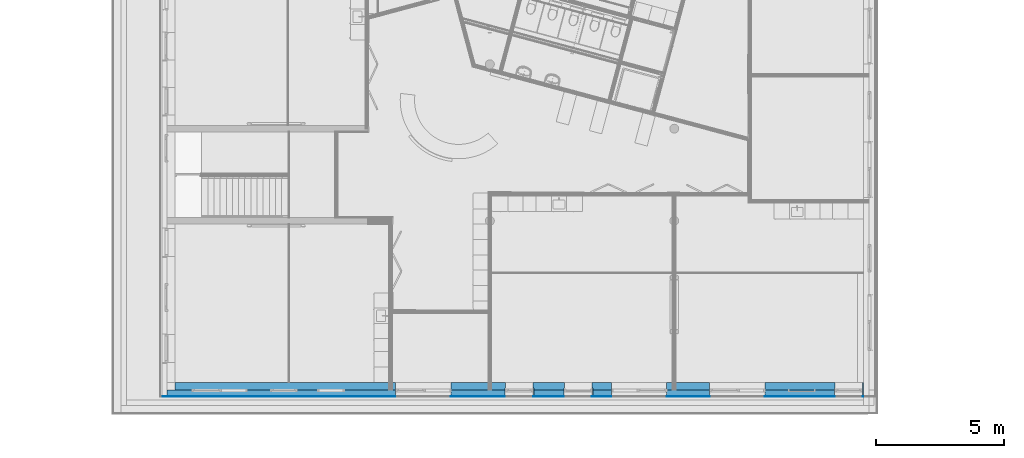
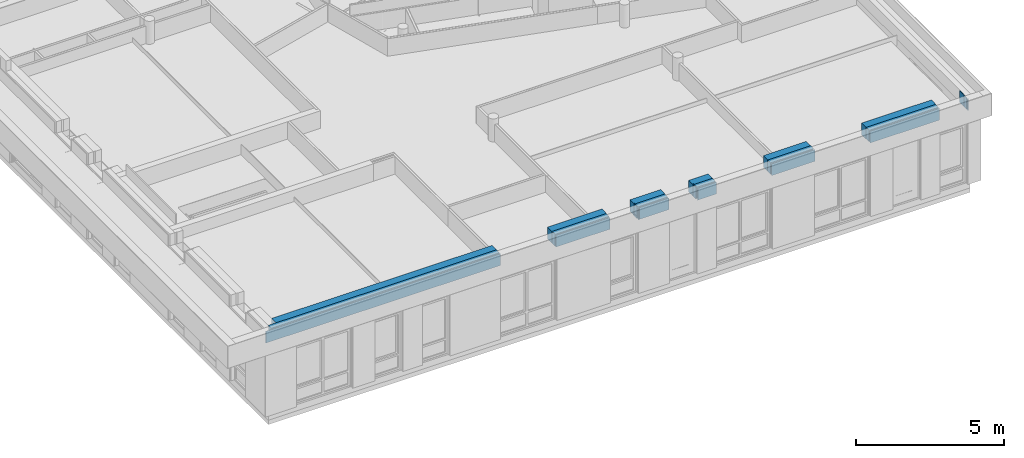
# One storey, part 51 of 167: 3 building element parts, 6 openings, 1 element without a shape of its own.
"""IFC2X3 building model written with IfcOpenShell, lengths in millimetres."""

from ifc_helpers import new_model, entity, si_unit, converted_unit, derived_unit, money_unit, direction, frame, origin_with_axes, place, context, subcontext, project, spatial, faceted_brep, material, type_object, element, aggregate, save


model = new_model("IFC2X3")

# Units and contexts
model_context = context("Model", 3, precision=0.01, world=origin_with_axes(), true_north=direction((0.0, 1.0)))
plan_context = context("Plan", 3, precision=0.01, world=origin_with_axes(), true_north=direction((0.0, 1.0)))
body_context = subcontext(model_context, "Body", "Model", "MODEL_VIEW")
ifc_project = project(units=[si_unit("LENGTHUNIT", "METRE", prefix="MILLI"), si_unit("AREAUNIT", "SQUARE_METRE"), si_unit("VOLUMEUNIT", "CUBIC_METRE"), converted_unit("PLANEANGLEUNIT", "DEGREE", entity("IfcPlaneAngleMeasure", 0.0174532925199), si_unit("PLANEANGLEUNIT", "RADIAN"), dimensions=[0, 0, 0, 0, 0, 0, 0]), si_unit("SOLIDANGLEUNIT", "STERADIAN"), money_unit("EUR"), converted_unit("TIMEUNIT", "Year", entity("IfcTimeMeasure", 31556926.0), si_unit("TIMEUNIT", "SECOND"), dimensions=[0, 0, 1, 0, 0, 0, 0]), si_unit("MASSUNIT", "GRAM", prefix="KILO"), si_unit("THERMODYNAMICTEMPERATUREUNIT", "DEGREE_CELSIUS"), si_unit("LUMINOUSINTENSITYUNIT", "LUMEN"), si_unit("ENERGYUNIT", "JOULE", prefix="MEGA"), derived_unit("THERMALCONDUCTANCEUNIT", [(si_unit("POWERUNIT", "WATT"), 1), (si_unit("LENGTHUNIT", "METRE"), -1), (si_unit("THERMODYNAMICTEMPERATUREUNIT", "KELVIN"), -1)]), derived_unit("SPECIFICHEATCAPACITYUNIT", [(si_unit("ENERGYUNIT", "JOULE"), 1), (si_unit("MASSUNIT", "GRAM", prefix="KILO"), -1), (si_unit("THERMODYNAMICTEMPERATUREUNIT", "KELVIN"), -1)]), derived_unit("MASSDENSITYUNIT", [(si_unit("MASSUNIT", "GRAM", prefix="KILO"), 1), (si_unit("VOLUMEUNIT", "CUBIC_METRE"), -1)])], contexts=[model_context, plan_context])

# Site, building, storey
site_placement = place(None, origin_with_axes())
site = spatial("IfcSite", under=ifc_project, at=site_placement, Name="Site", CompositionType="ELEMENT")
building_placement = place(site_placement, origin_with_axes())
building = spatial("IfcBuilding", under=site, at=building_placement, Name="Naam gebouw", CompositionType="ELEMENT")
storey_placement = place(building_placement, origin_with_axes())
storey = spatial("IfcBuildingStorey", under=building, at=storey_placement, Name="Begane grond", CompositionType="ELEMENT", Elevation=0.0)

# Wall, openings, building element parts
wall_type = type_object("IfcWallType", Name="_TenW_21_Spouwmuur ht-kz-300- RC 4,7 574", PredefinedType="NOTDEFINED")
wall_placement = place(storey_placement, frame((1800.0, 600.0, 3050.0), z_axis=(0.0, 0.0, 1.0), x_axis=(1.0, 0.0, 0.0)))
wall = element("IfcWall", 1, at=wall_placement, inside=storey, type_object=wall_type, Name="21_Wand_Wand-x")
opening_1_placement = place(wall_placement, frame((-1800.0, -600.0, -3050.0), z_axis=(0.0, 0.0, 1.0), x_axis=(1.0, 0.0, 0.0)))
element("IfcOpeningElement", 2, at=opening_1_placement, cuts=wall, Name="_Lege opening_Doorvoer-x", context=body_context, shape_type="Brep", body=[
    faceted_brep([(22982.1700651, 326.0, 3050.0), (22982.1700651, 326.0, 3530.0), (22982.1700651, 900.0, 3530.0), (22982.1700651, 900.0, 3050.0), (25142.0700651, 326.0, 3050.0), (25142.0700651, 326.0, 3530.0), (25142.0700651, 900.0, 3530.0), (25142.0700651, 900.0, 3050.0)], [[[0, 1, 2, 3]], [[0, 4, 5, 1]], [[1, 5, 6, 2]], [[3, 2, 6, 7]], [[4, 0, 3, 7]], [[5, 4, 7, 6]]]),
])
opening_2_placement = place(wall_placement, frame((-1800.0, -600.0, -3050.0), z_axis=(0.0, 0.0, 1.0), x_axis=(1.0, 0.0, 0.0)))
element("IfcOpeningElement", 3, at=opening_2_placement, cuts=wall, Name="_Lege opening_Doorvoer-x", context=body_context, shape_type="Brep", body=[
    faceted_brep([(27875.5740559, 326.0, 3050.0), (27875.5740559, 326.0, 3530.0), (27875.5740559, 900.0, 3530.0), (27875.5740559, 900.0, 3050.0), (28958.0940559, 326.0, 3050.0), (28958.0940559, 326.0, 3530.0), (28958.0940559, 900.0, 3530.0), (28958.0940559, 900.0, 3050.0)], [[[0, 1, 2, 3]], [[0, 4, 5, 1]], [[1, 5, 6, 2]], [[3, 2, 6, 7]], [[4, 0, 3, 7]], [[5, 4, 7, 6]]]),
])
opening_3_placement = place(wall_placement, frame((-1800.0, -600.0, -3050.0), z_axis=(0.0, 0.0, 1.0), x_axis=(1.0, 0.0, 0.0)))
element("IfcOpeningElement", 4, at=opening_3_placement, cuts=wall, Name="_Lege opening_Doorvoer-x", context=body_context, shape_type="Brep", body=[
    faceted_brep([(19141.2090559, 326.0, 3050.0), (19141.2090559, 326.0, 3530.0), (19141.2090559, 900.0, 3530.0), (19141.2090559, 900.0, 3050.0), (21301.1090559, 326.0, 3050.0), (21301.1090559, 326.0, 3530.0), (21301.1090559, 900.0, 3530.0), (21301.1090559, 900.0, 3050.0)], [[[0, 1, 2, 3]], [[0, 4, 5, 1]], [[1, 5, 6, 2]], [[3, 2, 6, 7]], [[4, 0, 3, 7]], [[5, 4, 7, 6]]]),
])
opening_4_placement = place(wall_placement, frame((-1800.0, -600.0, -3050.0), z_axis=(0.0, 0.0, 1.0), x_axis=(1.0, 0.0, 0.0)))
element("IfcOpeningElement", 5, at=opening_4_placement, cuts=wall, Name="_Lege opening_Doorvoer-x", context=body_context, shape_type="Brep", body=[
    faceted_brep([(17305.4640559, 326.0, 3050.0), (17305.4640559, 326.0, 3530.0), (17305.4640559, 900.0, 3530.0), (17305.4640559, 900.0, 3050.0), (18387.9840559, 326.0, 3050.0), (18387.9840559, 326.0, 3530.0), (18387.9840559, 900.0, 3530.0), (18387.9840559, 900.0, 3050.0)], [[[0, 1, 2, 3]], [[0, 4, 5, 1]], [[1, 5, 6, 2]], [[3, 2, 6, 7]], [[4, 0, 3, 7]], [[5, 4, 7, 6]]]),
])
opening_5_placement = place(wall_placement, frame((-1800.0, -600.0, -3050.0), z_axis=(0.0, 0.0, 1.0), x_axis=(1.0, 0.0, 0.0)))
element("IfcOpeningElement", 6, at=opening_5_placement, cuts=wall, Name="_Lege opening_Doorvoer-x", context=body_context, shape_type="Brep", body=[
    faceted_brep([(15007.6140559, 326.0, 3050.0), (15007.6140559, 326.0, 3530.0), (15007.6140559, 900.0, 3530.0), (15007.6140559, 900.0, 3050.0), (16090.1340559, 326.0, 3050.0), (16090.1340559, 326.0, 3530.0), (16090.1340559, 900.0, 3530.0), (16090.1340559, 900.0, 3050.0)], [[[0, 1, 2, 3]], [[0, 4, 5, 1]], [[1, 5, 6, 2]], [[3, 2, 6, 7]], [[4, 0, 3, 7]], [[5, 4, 7, 6]]]),
])
opening_6_placement = place(wall_placement, frame((-1800.0, -600.0, -3050.0), z_axis=(0.0, 0.0, 1.0), x_axis=(1.0, 0.0, 0.0)))
element("IfcOpeningElement", 7, at=opening_6_placement, cuts=wall, Name="_Lege opening_Doorvoer-x", context=body_context, shape_type="Brep", body=[
    faceted_brep([(10715.7790559, 326.0, 3050.0), (10715.7790559, 326.0, 3530.0), (10715.7790559, 900.0, 3530.0), (10715.7790559, 900.0, 3050.0), (12875.6790559, 326.0, 3050.0), (12875.6790559, 326.0, 3530.0), (12875.6790559, 900.0, 3530.0), (12875.6790559, 900.0, 3050.0)], [[[0, 1, 2, 3]], [[0, 4, 5, 1]], [[1, 5, 6, 2]], [[3, 2, 6, 7]], [[4, 0, 3, 7]], [[5, 4, 7, 6]]]),
])
ifc_material_1 = material(Name="Steen - Kalkzandsteen C")
building_element_part_1_placement = place(wall_placement, origin_with_axes())
building_element_part_1 = element("IfcBuildingElementPart", 8, at=building_element_part_1_placement, material=ifc_material_1, Name="Steen - Kalkzandsteen C", context=body_context, shape_type="Brep", body=[
    faceted_brep([(300.0, 300.0, 480.0), (8915.77905593, 300.0, 480.0), (8915.77905593, 300.0, 0.0), (300.0, 300.0, 0.0), (8915.77905593, 0.0, 480.0), (300.0, 0.0, 480.0), (8915.77905593, 0.0, 0.0), (300.0, 0.0, 0.0)], [[[0, 1, 2, 3]], [[4, 1, 0, 5]], [[1, 4, 6, 2]], [[6, 7, 3, 2]], [[5, 0, 3, 7]], [[4, 5, 7, 6]]]),
    faceted_brep([(11075.6790559, 300.0, 480.0), (13207.6140559, 300.0, 480.0), (13207.6140559, 300.0, 0.0), (11075.6790559, 300.0, 0.0), (13207.6140559, 70.0, 480.0), (11075.6790559, 0.0, 480.0), (13189.6140559, 0.0, 480.0), (13189.6140559, 70.0, 480.0), (13207.6140559, 70.0, 0.0), (13189.6140559, 70.0, 0.0), (13189.6140559, 0.0, 0.0), (11075.6790559, 0.0, 0.0)], [[[0, 1, 2, 3]], [[4, 1, 0, 5, 6, 7]], [[1, 4, 8, 2]], [[8, 9, 10, 11, 3, 2]], [[5, 0, 3, 11]], [[6, 5, 11, 10]], [[7, 6, 10, 9]], [[4, 7, 9, 8]]]),
    faceted_brep([(14290.1340559, 82.335281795, 0.0), (14312.6140559, 82.335281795, 0.0), (14312.6140559, 282.0, 0.0), (14290.1340559, 282.0, 0.0), (14290.1340559, 300.0, 0.0), (15505.4640559, 300.0, 0.0), (15505.4640559, 70.0, 0.0), (15487.4640559, 70.0, 0.0), (15487.4640559, 0.0, 0.0), (14330.6140559, 0.0, 0.0), (14330.6140559, 70.0, 0.0), (14312.6140559, 70.0, 0.0), (14312.6140559, 0.0, 0.0), (14290.1340559, 0.0, 0.0), (14290.1340559, 82.335281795, 10.0), (14312.6140559, 82.335281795, 10.0), (14312.6140559, 282.0, 10.0), (14290.1340559, 282.0, 10.0), (14290.1340559, 0.0, 80.0), (14290.1340559, 70.0, 80.0), (14290.1340559, 70.0, 90.0), (14290.1340559, 0.0, 90.0), (14290.1340559, 0.0, 480.0), (14290.1340559, 300.0, 480.0), (15505.4640559, 300.0, 480.0), (15505.4640559, 70.0, 480.0), (15487.4640559, 70.0, 480.0), (15487.4640559, 0.0, 480.0), (14330.6140559, 0.0, 480.0), (14330.6140559, 70.0, 480.0), (14312.6140559, 70.0, 90.0), (14312.6140559, 70.0, 80.0), (14312.6140559, 70.0, 480.0), (14312.6140559, 0.0, 80.0), (14312.6140559, 0.0, 90.0), (14312.6140559, 0.0, 480.0)], [[[0, 1, 2, 3, 4, 5, 6, 7, 8, 9, 10, 11, 12, 13]], [[1, 0, 14, 15]], [[2, 1, 15, 16]], [[3, 2, 16, 17]], [[14, 0, 13, 18, 19, 20, 21, 22, 23, 4, 3, 17]], [[23, 24, 5, 4]], [[24, 25, 6, 5]], [[25, 26, 7, 6]], [[26, 27, 8, 7]], [[27, 28, 9, 8]], [[28, 29, 10, 9]], [[30, 20, 19, 31, 11, 10, 29, 32]], [[31, 33, 12, 11]], [[33, 18, 13, 12]], [[14, 17, 16, 15]], [[33, 31, 19, 18]], [[30, 34, 21, 20]], [[21, 34, 35, 22]], [[25, 24, 23, 22, 35, 32, 29, 28, 27, 26]], [[34, 30, 32, 35]]]),
    faceted_brep([(17341.2090559, 82.335281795, 0.0), (17341.2090559, 82.335281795, 10.0), (17341.2090559, 282.0, 10.0), (17341.2090559, 282.0, 0.0), (17341.2090559, 300.0, 0.0), (17341.2090559, 300.0, 480.0), (17341.2090559, 0.0, 480.0), (17341.2090559, 0.0, 90.0), (17341.2090559, 70.0, 90.0), (17341.2090559, 70.0, 80.0), (17341.2090559, 0.0, 80.0), (17341.2090559, 0.0, 0.0), (17311.1090559, 82.335281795, 0.0), (17311.1090559, 82.335281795, 10.0), (17311.1090559, 282.0, 10.0), (17311.1090559, 282.0, 0.0), (16628.4640559, 0.0, 0.0), (16628.4640559, 70.0, 0.0), (16610.4640559, 70.0, 0.0), (16610.4640559, 0.0, 0.0), (16587.9840559, 0.0, 0.0), (16587.9840559, 82.335281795, 0.0), (16610.4640559, 82.335281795, 0.0), (16610.4640559, 282.0, 0.0), (16587.9840559, 282.0, 0.0), (16587.9840559, 300.0, 0.0), (16587.9840559, 300.0, 480.0), (16587.9840559, 0.0, 480.0), (16610.4640559, 0.0, 480.0), (16610.4640559, 70.0, 480.0), (16628.4640559, 70.0, 480.0), (16628.4640559, 0.0, 480.0), (17311.1090559, 0.0, 90.0), (17311.1090559, 0.0, 80.0), (17311.1090559, 70.0, 90.0), (17311.1090559, 70.0, 80.0), (16610.4640559, 70.0, 90.0), (16587.9840559, 70.0, 90.0), (16587.9840559, 70.0, 80.0), (16610.4640559, 70.0, 80.0), (16610.4640559, 0.0, 80.0), (16587.9840559, 0.0, 80.0), (16587.9840559, 82.335281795, 10.0), (16587.9840559, 0.0, 90.0), (16587.9840559, 282.0, 10.0), (16610.4640559, 82.335281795, 10.0), (16610.4640559, 282.0, 10.0), (16610.4640559, 0.0, 90.0)], [[[0, 1, 2, 3, 4, 5, 6, 7, 8, 9, 10, 11]], [[1, 0, 12, 13]], [[2, 1, 13, 14]], [[3, 2, 14, 15]], [[12, 0, 11, 16, 17, 18, 19, 20, 21, 22, 23, 24, 25, 4, 3, 15]], [[26, 5, 4, 25]], [[6, 5, 26, 27, 28, 29, 30, 31]], [[32, 7, 6, 31, 16, 11, 10, 33]], [[8, 7, 32, 34]], [[9, 8, 34, 35]], [[10, 9, 35, 33]], [[12, 15, 14, 13]], [[31, 30, 17, 16]], [[36, 37, 38, 39, 18, 17, 30, 29]], [[39, 40, 19, 18]], [[40, 41, 20, 19]], [[42, 21, 20, 41, 38, 37, 43, 27, 26, 25, 24, 44]], [[22, 21, 42, 45]], [[23, 22, 45, 46]], [[24, 23, 46, 44]], [[43, 47, 28, 27]], [[47, 36, 29, 28]], [[32, 33, 35, 34]], [[36, 47, 43, 37]], [[40, 39, 38, 41]], [[42, 44, 46, 45]]]),
    faceted_brep([(21182.1700651, 82.335281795, 0.0), (21182.1700651, 82.335281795, 10.0), (21182.1700651, 282.0, 10.0), (21182.1700651, 282.0, 0.0), (21182.1700651, 300.0, 0.0), (21182.1700651, 300.0, 480.0), (21182.1700651, 0.0, 480.0), (21182.1700651, 0.0, 90.0), (21182.1700651, 70.0, 90.0), (21182.1700651, 70.0, 80.0), (21182.1700651, 0.0, 80.0), (21182.1700651, 0.0, 0.0), (21152.0700651, 82.335281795, 0.0), (21152.0700651, 82.335281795, 10.0), (21152.0700651, 282.0, 10.0), (21152.0700651, 282.0, 0.0), (19501.1090559, 0.0, 0.0), (19501.1090559, 300.0, 0.0), (19501.1090559, 300.0, 480.0), (19501.1090559, 0.0, 480.0), (21152.0700651, 0.0, 90.0), (21152.0700651, 0.0, 80.0), (21152.0700651, 70.0, 90.0), (21152.0700651, 70.0, 80.0)], [[[0, 1, 2, 3, 4, 5, 6, 7, 8, 9, 10, 11]], [[1, 0, 12, 13]], [[2, 1, 13, 14]], [[3, 2, 14, 15]], [[12, 0, 11, 16, 17, 4, 3, 15]], [[18, 5, 4, 17]], [[6, 5, 18, 19]], [[20, 7, 6, 19, 16, 11, 10, 21]], [[8, 7, 20, 22]], [[9, 8, 22, 23]], [[10, 9, 23, 21]], [[12, 15, 14, 13]], [[19, 18, 17, 16]], [[20, 21, 23, 22]]]),
    faceted_brep([(23342.0700651, 300.0, 480.0), (26075.5740559, 300.0, 480.0), (26075.5740559, 300.0, 0.0), (23342.0700651, 300.0, 0.0), (26075.5740559, 70.0, 480.0), (23342.0700651, 0.0, 480.0), (26057.5740559, 0.0, 480.0), (26057.5740559, 70.0, 480.0), (26075.5740559, 70.0, 0.0), (26057.5740559, 70.0, 0.0), (26057.5740559, 0.0, 0.0), (23342.0700651, 0.0, 0.0)], [[[0, 1, 2, 3]], [[4, 1, 0, 5, 6, 7]], [[1, 4, 8, 2]], [[8, 9, 10, 11, 3, 2]], [[5, 0, 3, 11]], [[6, 5, 11, 10]], [[7, 6, 10, 9]], [[4, 7, 9, 8]]]),
    faceted_brep([(27158.0940559, 82.335281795, 0.0), (27180.5740559, 82.335281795, 0.0), (27180.5740559, 282.0, 0.0), (27158.0940559, 282.0, 0.0), (27158.0940559, 300.0, 0.0), (27186.0, 300.0, 0.0), (27186.0, 70.0, 0.0), (27180.5740559, 70.0, 0.0), (27180.5740559, 0.0, 0.0), (27158.0940559, 0.0, 0.0), (27158.0940559, 82.335281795, 10.0), (27180.5740559, 82.335281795, 10.0), (27180.5740559, 282.0, 10.0), (27158.0940559, 282.0, 10.0), (27158.0940559, 0.0, 80.0), (27158.0940559, 70.0, 80.0), (27158.0940559, 70.0, 90.0), (27158.0940559, 0.0, 90.0), (27158.0940559, 0.0, 480.0), (27158.0940559, 300.0, 480.0), (27186.0, 300.0, 480.0), (27186.0, 70.0, 480.0), (27180.5740559, 70.0, 90.0), (27180.5740559, 70.0, 80.0), (27180.5740559, 70.0, 480.0), (27180.5740559, 0.0, 80.0), (27180.5740559, 0.0, 90.0), (27180.5740559, 0.0, 480.0)], [[[0, 1, 2, 3, 4, 5, 6, 7, 8, 9]], [[1, 0, 10, 11]], [[2, 1, 11, 12]], [[3, 2, 12, 13]], [[10, 0, 9, 14, 15, 16, 17, 18, 19, 4, 3, 13]], [[19, 20, 5, 4]], [[20, 21, 6, 5]], [[22, 16, 15, 23, 7, 6, 21, 24]], [[23, 25, 8, 7]], [[25, 14, 9, 8]], [[10, 13, 12, 11]], [[25, 23, 15, 14]], [[22, 26, 17, 16]], [[17, 26, 27, 18]], [[21, 20, 19, 18, 27, 24]], [[26, 22, 24, 27]]]),
])
ifc_material_2 = material(Name="Isolatie - Steenwol zacht")
building_element_part_2_placement = place(wall_placement, origin_with_axes())
building_element_part_2 = element("IfcBuildingElementPart", 9, at=building_element_part_2_placement, material=ifc_material_2, Name="Isolatie - Steenwol zacht", context=body_context, shape_type="Brep", body=[
    faceted_brep([(-1.58597623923e-06, 0.0, 480.0), (8915.77905593, 0.0, 480.0), (8915.77905593, 0.0, 0.0), (0.0, 0.0, 0.0), (8915.77905593, -200.0, 480.0), (-1.6012422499e-06, -200.0, 480.0), (8915.77905593, -200.0, 0.0), (0.0, -200.0, 0.0)], [[[0, 1, 2, 3]], [[4, 1, 0, 5]], [[1, 4, 6, 2]], [[6, 7, 3, 2]], [[5, 0, 3, 7]], [[4, 5, 7, 6]]]),
    faceted_brep([(11075.6790559, 0.0, 480.0), (13189.6140559, 0.0, 480.0), (13189.6140559, 0.0, 0.0), (11075.6790559, 0.0, 0.0), (13189.6140559, -200.0, 480.0), (11075.6790559, -200.0, 480.0), (13189.6140559, -200.0, 0.0), (11075.6790559, -200.0, 0.0)], [[[0, 1, 2, 3]], [[4, 1, 0, 5]], [[1, 4, 6, 2]], [[3, 2, 6, 7]], [[5, 0, 3, 7]], [[4, 5, 7, 6]]]),
    faceted_brep([(14290.1340559, 0.0, 80.0), (14312.6140559, 0.0, 80.0), (14312.6140559, 0.0, 0.0), (14290.1340559, 0.0, 0.0), (14312.6140559, -200.0, 80.0), (14290.1340559, -200.0, 80.0), (14312.6140559, -200.0, 0.0), (14290.1340559, -200.0, 0.0)], [[[0, 1, 2, 3]], [[4, 1, 0, 5]], [[1, 4, 6, 2]], [[3, 2, 6, 7]], [[5, 0, 3, 7]], [[4, 5, 7, 6]]]),
    faceted_brep([(14330.6140559, 0.0, 480.0), (15487.4640559, 0.0, 480.0), (15487.4640559, 0.0, 0.0), (14330.6140559, 0.0, 0.0), (15487.4640559, -200.0, 480.0), (14330.6140559, -200.0, 480.0), (15487.4640559, -200.0, 0.0), (14330.6140559, -200.0, 0.0)], [[[0, 1, 2, 3]], [[4, 1, 0, 5]], [[1, 4, 6, 2]], [[3, 2, 6, 7]], [[5, 0, 3, 7]], [[4, 5, 7, 6]]]),
    faceted_brep([(16587.9840559, 0.0, 80.0), (16610.4640559, 0.0, 80.0), (16610.4640559, 0.0, 0.0), (16587.9840559, 0.0, 0.0), (16610.4640559, -200.0, 80.0), (16587.9840559, -200.0, 80.0), (16610.4640559, -200.0, 0.0), (16587.9840559, -200.0, 0.0)], [[[0, 1, 2, 3]], [[4, 1, 0, 5]], [[1, 4, 6, 2]], [[3, 2, 6, 7]], [[5, 0, 3, 7]], [[4, 5, 7, 6]]]),
    faceted_brep([(17341.2090559, -200.0, 90.0), (17341.2090559, 0.0, 90.0), (17341.2090559, 0.0, 480.0), (17341.2090559, -200.0, 480.0), (17311.1090559, -200.0, 90.0), (17311.1090559, 0.0, 90.0), (17311.1090559, 0.0, 80.0), (17341.2090559, 0.0, 80.0), (17341.2090559, 0.0, 0.0), (16628.4640559, 0.0, 0.0), (16628.4640559, 0.0, 480.0), (16628.4640559, -200.0, 480.0), (16628.4640559, -200.0, 0.0), (17341.2090559, -200.0, 0.0), (17341.2090559, -200.0, 80.0), (17311.1090559, -200.0, 80.0)], [[[0, 1, 2, 3]], [[1, 0, 4, 5]], [[6, 7, 8, 9, 10, 2, 1, 5]], [[3, 2, 10, 11]], [[4, 0, 3, 11, 12, 13, 14, 15]], [[4, 15, 6, 5]], [[14, 7, 6, 15]], [[14, 13, 8, 7]], [[13, 12, 9, 8]], [[11, 10, 9, 12]]]),
    faceted_brep([(21182.1700651, -200.0, 90.0), (21182.1700651, 0.0, 90.0), (21182.1700651, 0.0, 480.0), (21182.1700651, -200.0, 480.0), (21152.0700651, -200.0, 90.0), (21152.0700651, 0.0, 90.0), (21152.0700651, 0.0, 80.0), (21182.1700651, 0.0, 80.0), (21182.1700651, 0.0, 0.0), (19501.1090559, 0.0, 0.0), (19501.1090559, 0.0, 480.0), (19501.1090559, -200.0, 480.0), (19501.1090559, -200.0, 0.0), (21182.1700651, -200.0, 0.0), (21182.1700651, -200.0, 80.0), (21152.0700651, -200.0, 80.0)], [[[0, 1, 2, 3]], [[1, 0, 4, 5]], [[6, 7, 8, 9, 10, 2, 1, 5]], [[3, 2, 10, 11]], [[4, 0, 3, 11, 12, 13, 14, 15]], [[4, 15, 6, 5]], [[14, 7, 6, 15]], [[14, 13, 8, 7]], [[8, 13, 12, 9]], [[11, 10, 9, 12]]]),
    faceted_brep([(23342.0700651, 0.0, 480.0), (26057.5740559, 0.0, 480.0), (26057.5740559, 0.0, 0.0), (23342.0700651, 0.0, 0.0), (26057.5740559, -200.0, 480.0), (23342.0700651, -200.0, 480.0), (26057.5740559, -200.0, 0.0), (23342.0700651, -200.0, 0.0)], [[[0, 1, 2, 3]], [[4, 1, 0, 5]], [[1, 4, 6, 2]], [[3, 2, 6, 7]], [[5, 0, 3, 7]], [[4, 5, 7, 6]]]),
    faceted_brep([(27158.0940559, 0.0, 80.0), (27180.5740559, 0.0, 80.0), (27180.5740559, 0.0, 0.0), (27158.0940559, 0.0, 0.0), (27180.5740559, -200.0, 80.0), (27158.0940559, -200.0, 80.0), (27180.5740559, -200.0, 0.0), (27158.0940559, -200.0, 0.0)], [[[0, 1, 2, 3]], [[4, 1, 0, 5]], [[1, 4, 6, 2]], [[3, 2, 6, 7]], [[5, 0, 3, 7]], [[4, 5, 7, 6]]]),
    faceted_brep([(14312.6140559, -200.0, 90.0), (14312.6140559, 0.0, 90.0), (14312.6140559, 0.0, 480.0), (14312.6140559, -200.0, 480.0), (14290.1340559, 0.0, 90.0), (14290.1340559, -200.0, 90.0), (14290.1340559, 0.0, 480.0), (14290.1340559, -200.0, 480.0)], [[[0, 1, 2, 3]], [[4, 1, 0, 5]], [[1, 4, 6, 2]], [[3, 2, 6, 7]], [[5, 0, 3, 7]], [[4, 5, 7, 6]]]),
    faceted_brep([(16610.4640559, -200.0, 90.0), (16610.4640559, 0.0, 90.0), (16610.4640559, 0.0, 480.0), (16610.4640559, -200.0, 480.0), (16587.9840559, 0.0, 90.0), (16587.9840559, -200.0, 90.0), (16587.9840559, 0.0, 480.0), (16587.9840559, -200.0, 480.0)], [[[0, 1, 2, 3]], [[4, 1, 0, 5]], [[1, 4, 6, 2]], [[3, 2, 6, 7]], [[5, 0, 3, 7]], [[4, 5, 7, 6]]]),
    faceted_brep([(27180.5740559, -200.0, 90.0), (27180.5740559, 0.0, 90.0), (27180.5740559, 0.0, 480.0), (27180.5740559, -200.0, 480.0), (27158.0940559, 0.0, 90.0), (27158.0940559, -200.0, 90.0), (27158.0940559, 0.0, 480.0), (27158.0940559, -200.0, 480.0)], [[[0, 1, 2, 3]], [[4, 1, 0, 5]], [[1, 4, 6, 2]], [[3, 2, 6, 7]], [[5, 0, 3, 7]], [[4, 5, 7, 6]]]),
])
ifc_material_3 = material(Name="_TenW_21_Hout betimmering")
building_element_part_3_placement = place(wall_placement, origin_with_axes())
building_element_part_3 = element("IfcBuildingElementPart", 10, at=building_element_part_3_placement, material=ifc_material_3, Name="_TenW_21_Hout betimmering", context=body_context, shape_type="Brep", body=[
    faceted_brep([(-256.000000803, -256.0, 480.0), (8915.77905593, -256.0, 480.0), (8915.77905593, -256.0, 0.0), (-256.0, -256.0, 0.0), (8915.77905593, -274.0, 480.0), (-256.000000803, -274.0, 480.0), (8915.77905593, -274.0, 0.0), (-256.0, -274.0, 0.0)], [[[0, 1, 2, 3]], [[4, 1, 0, 5]], [[1, 4, 6, 2]], [[6, 7, 3, 2]], [[5, 0, 3, 7]], [[4, 5, 7, 6]]]),
    faceted_brep([(11075.6790559, -256.0, 480.0), (13189.6140559, -256.0, 480.0), (13189.6140559, -256.0, 0.0), (11075.6790559, -256.0, 0.0), (13189.6140559, -274.0, 480.0), (11075.6790559, -274.0, 480.0), (13189.6140559, -274.0, 0.0), (11075.6790559, -274.0, 0.0)], [[[0, 1, 2, 3]], [[4, 1, 0, 5]], [[1, 4, 6, 2]], [[3, 2, 6, 7]], [[5, 0, 3, 7]], [[4, 5, 7, 6]]]),
    faceted_brep([(14290.1340559, -256.0, 480.0), (14312.6140559, -256.0, 480.0), (14312.6140559, -256.0, 0.0), (14290.1340559, -256.0, 0.0), (14312.6140559, -274.0, 480.0), (14290.1340559, -274.0, 480.0), (14312.6140559, -274.0, 0.0), (14290.1340559, -274.0, 0.0)], [[[0, 1, 2, 3]], [[4, 1, 0, 5]], [[1, 4, 6, 2]], [[3, 2, 6, 7]], [[5, 0, 3, 7]], [[4, 5, 7, 6]]]),
    faceted_brep([(14330.6140559, -256.0, 480.0), (15487.4640559, -256.0, 480.0), (15487.4640559, -256.0, 0.0), (14330.6140559, -256.0, 0.0), (15487.4640559, -274.0, 480.0), (14330.6140559, -274.0, 480.0), (15487.4640559, -274.0, 0.0), (14330.6140559, -274.0, 0.0)], [[[0, 1, 2, 3]], [[4, 1, 0, 5]], [[1, 4, 6, 2]], [[3, 2, 6, 7]], [[5, 0, 3, 7]], [[4, 5, 7, 6]]]),
    faceted_brep([(16587.9840559, -256.0, 480.0), (16610.4640559, -256.0, 480.0), (16610.4640559, -256.0, 0.0), (16587.9840559, -256.0, 0.0), (16610.4640559, -274.0, 480.0), (16587.9840559, -274.0, 480.0), (16610.4640559, -274.0, 0.0), (16587.9840559, -274.0, 0.0)], [[[0, 1, 2, 3]], [[4, 1, 0, 5]], [[1, 4, 6, 2]], [[3, 2, 6, 7]], [[5, 0, 3, 7]], [[4, 5, 7, 6]]]),
    faceted_brep([(16628.4640559, -256.0, 480.0), (17341.2090559, -256.0, 480.0), (17341.2090559, -256.0, 0.0), (16628.4640559, -256.0, 0.0), (17341.2090559, -274.0, 480.0), (16628.4640559, -274.0, 480.0), (17341.2090559, -274.0, 0.0), (16628.4640559, -274.0, 0.0)], [[[0, 1, 2, 3]], [[4, 1, 0, 5]], [[1, 4, 6, 2]], [[6, 7, 3, 2]], [[5, 0, 3, 7]], [[4, 5, 7, 6]]]),
    faceted_brep([(19501.1090559, -256.0, 480.0), (21182.1700651, -256.0, 480.0), (21182.1700651, -256.0, 0.0), (19501.1090559, -256.0, 0.0), (21182.1700651, -274.0, 480.0), (19501.1090559, -274.0, 480.0), (21182.1700651, -274.0, 0.0), (19501.1090559, -274.0, 0.0)], [[[0, 1, 2, 3]], [[4, 1, 0, 5]], [[1, 4, 6, 2]], [[2, 6, 7, 3]], [[5, 0, 3, 7]], [[4, 5, 7, 6]]]),
    faceted_brep([(23342.0700651, -256.0, 480.0), (26057.5740559, -256.0, 480.0), (26057.5740559, -256.0, 0.0), (23342.0700651, -256.0, 0.0), (26057.5740559, -274.0, 480.0), (23342.0700651, -274.0, 480.0), (26057.5740559, -274.0, 0.0), (23342.0700651, -274.0, 0.0)], [[[0, 1, 2, 3]], [[4, 1, 0, 5]], [[1, 4, 6, 2]], [[3, 2, 6, 7]], [[5, 0, 3, 7]], [[4, 5, 7, 6]]]),
    faceted_brep([(27158.0940559, -256.0, 480.0), (27180.5740559, -256.0, 480.0), (27180.5740559, -256.0, 0.0), (27158.0940559, -256.0, 0.0), (27180.5740559, -274.0, 480.0), (27158.0940559, -274.0, 480.0), (27180.5740559, -274.0, 0.0), (27158.0940559, -274.0, 0.0)], [[[0, 1, 2, 3]], [[4, 1, 0, 5]], [[1, 4, 6, 2]], [[3, 2, 6, 7]], [[5, 0, 3, 7]], [[4, 5, 7, 6]]]),
])
aggregate(wall, [building_element_part_1, building_element_part_2, building_element_part_3])

save(model, "model.ifc")
